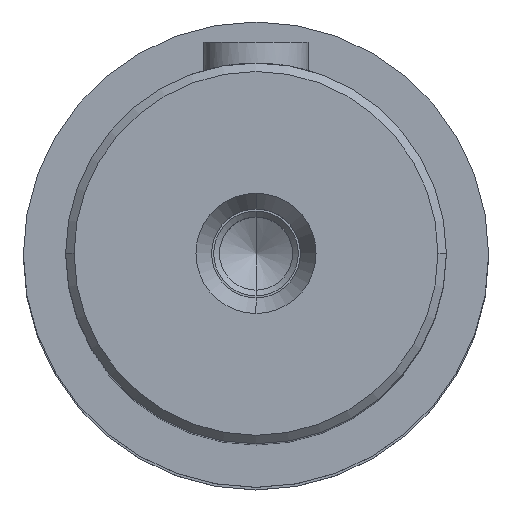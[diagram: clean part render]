
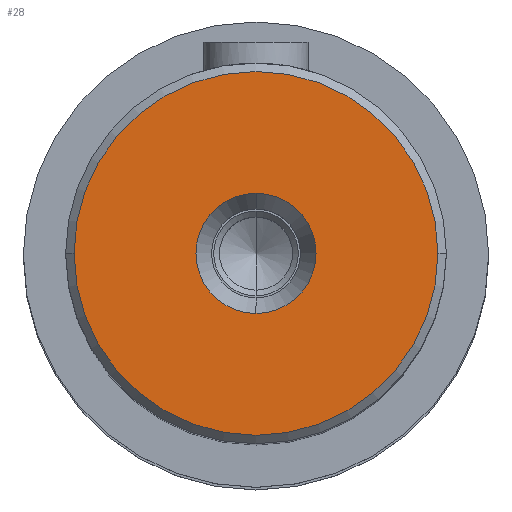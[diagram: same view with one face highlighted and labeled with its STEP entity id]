
A CAD part, top view. The second image highlights one B-rep face of the part: STEP entity #28.
In plain terms, the highlighted planar face has unit normal (0, 0, 1) as drawn and (1, 0, 0) by its records, which use the part's own axes.
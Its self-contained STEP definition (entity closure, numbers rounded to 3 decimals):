
#28=ADVANCED_FACE('',(#90,#76),#762,.T.);
#76=FACE_BOUND('',#149,.T.);
#90=FACE_OUTER_BOUND('',#148,.T.);
#148=EDGE_LOOP('',(#242,#243));
#149=EDGE_LOOP('',(#244,#245));
#242=ORIENTED_EDGE('',*,*,#430,.F.);
#243=ORIENTED_EDGE('',*,*,#433,.F.);
#244=ORIENTED_EDGE('',*,*,#503,.F.);
#245=ORIENTED_EDGE('',*,*,#462,.F.);
#430=EDGE_CURVE('',#693,#696,#578,.T.);
#433=EDGE_CURVE('',#696,#693,#580,.T.);
#462=EDGE_CURVE('',#695,#735,#592,.T.);
#503=EDGE_CURVE('',#735,#695,#615,.T.);
#578=TRIMMED_CURVE($,#631,(#1571),(#1572),.T.,.CARTESIAN.);
#580=TRIMMED_CURVE($,#633,(#1579),(#1580),.T.,.CARTESIAN.);
#592=TRIMMED_CURVE($,#645,(#1649),(#1650),.T.,.CARTESIAN.);
#615=TRIMMED_CURVE($,#668,(#1754),(#1755),.T.,.CARTESIAN.);
#631=CIRCLE('',#1016,43.);
#633=CIRCLE('',#1018,43.);
#645=CIRCLE('',#1030,14.2);
#668=CIRCLE('',#1053,14.2);
#693=VERTEX_POINT('',#1428);
#695=VERTEX_POINT('',#1430);
#696=VERTEX_POINT('',#1431);
#735=VERTEX_POINT('',#1470);
#762=PLANE('',#980);
#980=AXIS2_PLACEMENT_3D('',#1233,#1075,$);
#1016=AXIS2_PLACEMENT_3D($,#1570,#1120,#1121);
#1018=AXIS2_PLACEMENT_3D($,#1578,#1124,#1125);
#1030=AXIS2_PLACEMENT_3D($,#1648,#1148,#1149);
#1053=AXIS2_PLACEMENT_3D($,#1753,#1194,#1195);
#1075=DIRECTION('',(1.,0.,0.));
#1120=DIRECTION('',(-1.,0.,0.));
#1121=DIRECTION('',(0.,0.,1.));
#1124=DIRECTION('',(-1.,0.,0.));
#1125=DIRECTION('',(0.,0.,-1.));
#1148=DIRECTION('',(1.,0.,0.));
#1149=DIRECTION('',(0.,1.,0.));
#1194=DIRECTION('',(1.,0.,0.));
#1195=DIRECTION('',(0.,-1.,0.));
#1233=CARTESIAN_POINT('',(351.5,-51.66,-51.66));
#1428=CARTESIAN_POINT('',(351.5,0.,43.));
#1430=CARTESIAN_POINT('',(351.5,14.2,0.));
#1431=CARTESIAN_POINT('',(351.5,0.,-43.));
#1470=CARTESIAN_POINT('',(351.5,-14.2,0.));
#1570=CARTESIAN_POINT('',(351.5,0.,0.));
#1571=CARTESIAN_POINT('',(351.5,0.,43.));
#1572=CARTESIAN_POINT('',(351.5,0.,-43.));
#1578=CARTESIAN_POINT('',(351.5,0.,0.));
#1579=CARTESIAN_POINT('',(351.5,0.,-43.));
#1580=CARTESIAN_POINT('',(351.5,0.,43.));
#1648=CARTESIAN_POINT('',(351.5,0.,0.));
#1649=CARTESIAN_POINT('',(351.5,14.2,0.));
#1650=CARTESIAN_POINT('',(351.5,-14.2,0.));
#1753=CARTESIAN_POINT('',(351.5,0.,0.));
#1754=CARTESIAN_POINT('',(351.5,-14.2,0.));
#1755=CARTESIAN_POINT('',(351.5,14.2,0.));
